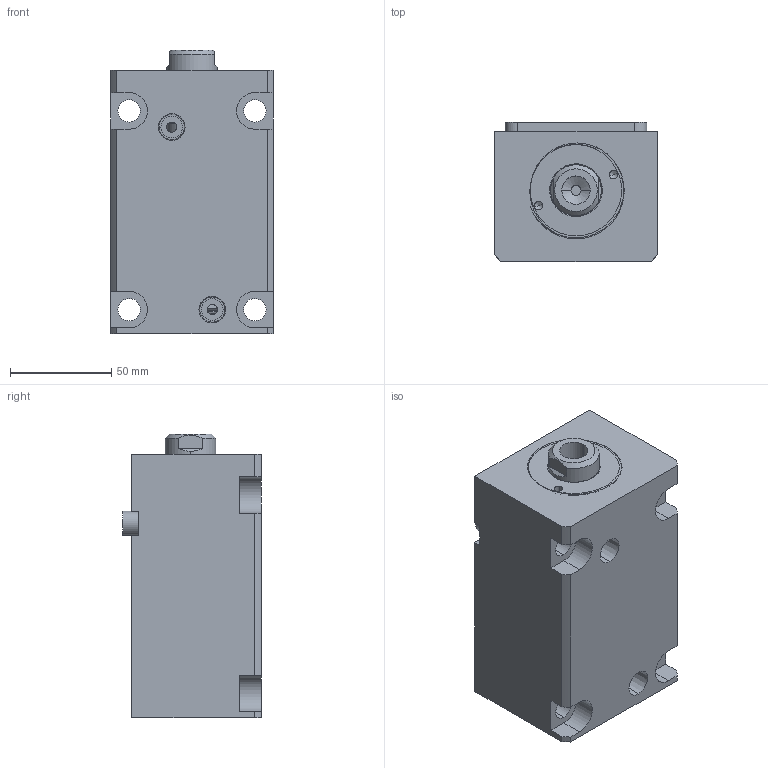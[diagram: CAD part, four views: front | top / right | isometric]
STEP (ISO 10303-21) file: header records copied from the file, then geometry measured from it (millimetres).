
FILE_DESCRIPTION (( 'STEP AP214' ), '1' );
FILE_NAME ('chtb-la40x75n_asm.STEP', '2018-05-31T01:55:00', ( 'Windows' ), ( 'Microsoft' ), 'SwSTEP 2.0', 'SolidWorks 2015', '' );
FILE_SCHEMA (( 'AUTOMOTIVE_DESIGN' ));
Length unit declared in the file: millimetre
Products named in the file (5): CHTB-LA40PJ; CHTB-SD40QG; CHTB-SD40X75NHSG; CHTB-LA40X75NBT; chtb-la40x75n_asm
Assembly tree (4 placements, depth 2):
  chtb-la40x75n_asm
    CHTB-LA40X75NBT
    CHTB-SD40X75NHSG
    CHTB-SD40QG
    CHTB-LA40PJ
Bounding box: 80 x 68.5 x 140 mm (x, y, z)
Volume: 568938.3 mm3; surface area: 102160.8 mm2
Topology: 4 solids, 4 shells, 160 faces, 430 edges, 286 vertices
Faces by surface type: cylinder 73, plane 48, bspline 14, cone 13, torus 12
Entity records: 10258 total; most frequent: CARTESIAN_POINT 6106, ORIENTED_EDGE 848, DIRECTION 787, EDGE_CURVE 424, AXIS2_PLACEMENT_3D 314, VERTEX_POINT 286, EDGE_LOOP 188, CIRCLE 161
